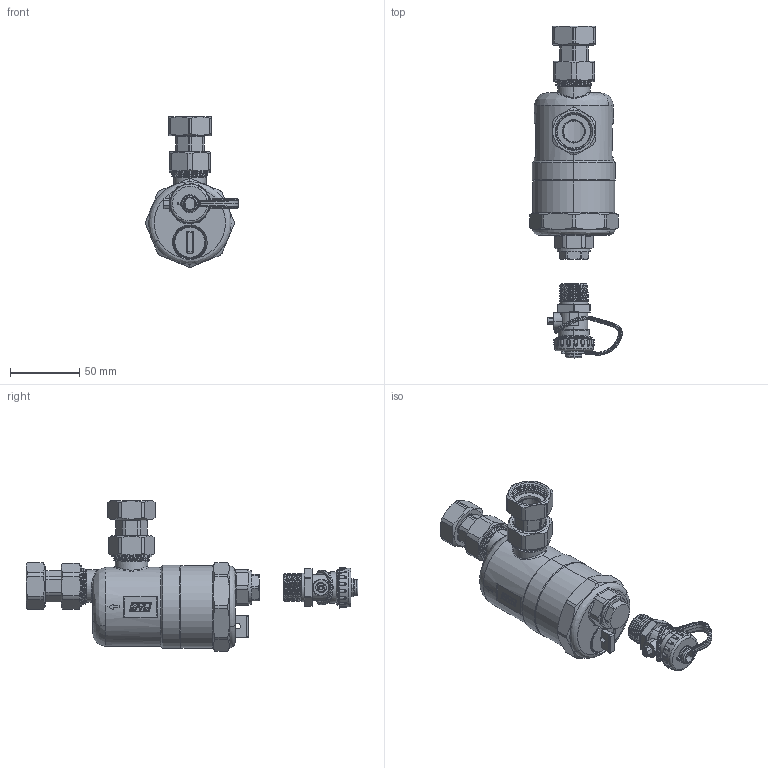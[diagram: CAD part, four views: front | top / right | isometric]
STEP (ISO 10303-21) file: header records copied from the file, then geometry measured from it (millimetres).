
FILE_DESCRIPTION (( 'STEP AP214' ), '1' );
FILE_NAME ('7774010.STEP', '2022-05-09T12:17:49', ( '' ), ( '' ), 'SwSTEP 2.0', 'SolidWorks 2021', '' );
FILE_SCHEMA (( 'AUTOMOTIVE_DESIGN' ));
Length unit declared in the file: millimetre
Products named in the file (18): 1637trmB_bianco; 3439 12B; 7774010; 4627asbA; 8350 172; 3820asb; 099stg; 542mnm_cromato; 8350 4445; 547trm_cromato; 5112asb; 227lem; 581mnm_F_cromato; 1742trm_cromato; 3439 12T; 017lme; 1781trmB_bianco; 3439 12A
Assembly tree (19 placements, depth 3):
  7774010
    3439 12T
      3439 12B
      3439 12A
    1637trmB_bianco
    4627asbA
      227lem
      581mnm_F_cromato
    8350 4445
    1781trmB_bianco
    5112asb  x2
      1742trm_cromato
      547trm_cromato
      017lme
      099stg
    3820asb
      542mnm_cromato
      8350 172
Bounding box: 67.06 x 239.78 x 108.7 mm (x, y, z)
Volume: 143635.4 mm3; surface area: 103232.8 mm2
Topology: 21 solids, 21 shells, 1679 faces, 4268 edges, 2667 vertices
Faces by surface type: bspline 689, cylinder 539, plane 287, cone 164
Entity records: 106141 total; most frequent: CARTESIAN_POINT 74660, ORIENTED_EDGE 7604, DIRECTION 4588, EDGE_CURVE 3802, VERTEX_POINT 2379, AXIS2_PLACEMENT_3D 1715, B_SPLINE_CURVE_WITH_KNOTS 1625, EDGE_LOOP 1569
